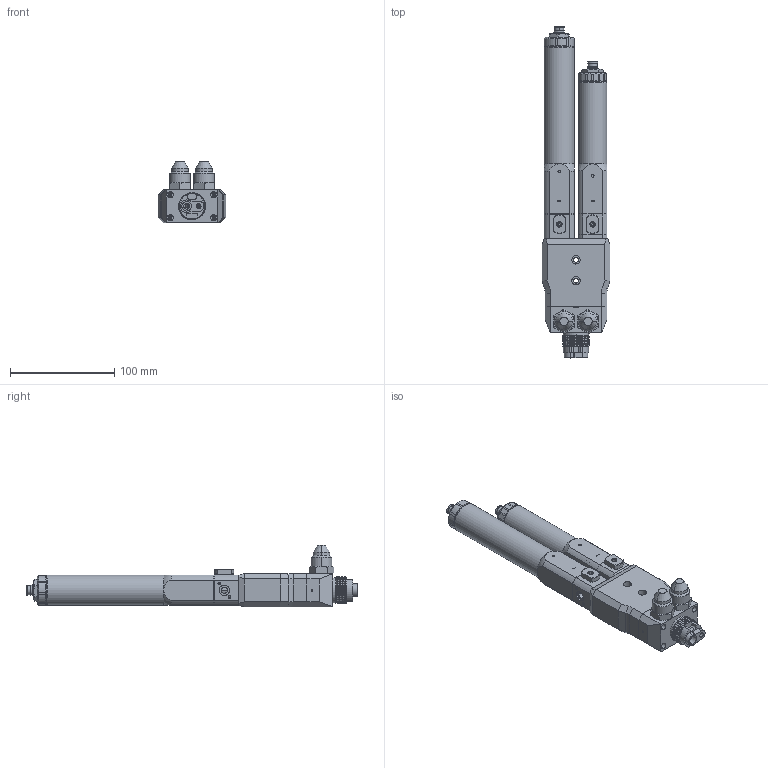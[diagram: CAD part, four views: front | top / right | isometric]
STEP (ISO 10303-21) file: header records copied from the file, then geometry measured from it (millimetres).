
FILE_DESCRIPTION (( 'STEP AP214' ), '1' );
FILE_NAME ('PDPM-500-050FB.STEP', '2024-10-11T12:14:25', ( '' ), ( '' ), 'SwSTEP 2.0', 'SolidWorks 2024', '' );
FILE_SCHEMA (( 'AUTOMOTIVE_DESIGN' ));
Length unit declared in the file: millimetre
Products named in the file (1): PDPM-500-050FB
Bounding box: 65 x 318 x 59.3 mm (x, y, z)
Volume: 422873.1 mm3; surface area: 101021.8 mm2
Topology: 12 solids, 12 shells, 1225 faces, 2983 edges, 1871 vertices
Faces by surface type: cylinder 479, plane 448, cone 269, bspline 13, torus 8, sphere 8
Full cylindrical faces by diameter (mm): 27 x1, 29 x1
Entity records: 44631 total; most frequent: CARTESIAN_POINT 16114, DIRECTION 5967, ORIENTED_EDGE 5878, EDGE_CURVE 2939, AXIS2_PLACEMENT_3D 2364, VERTEX_POINT 1871, EDGE_LOOP 1396, VECTOR 1239
